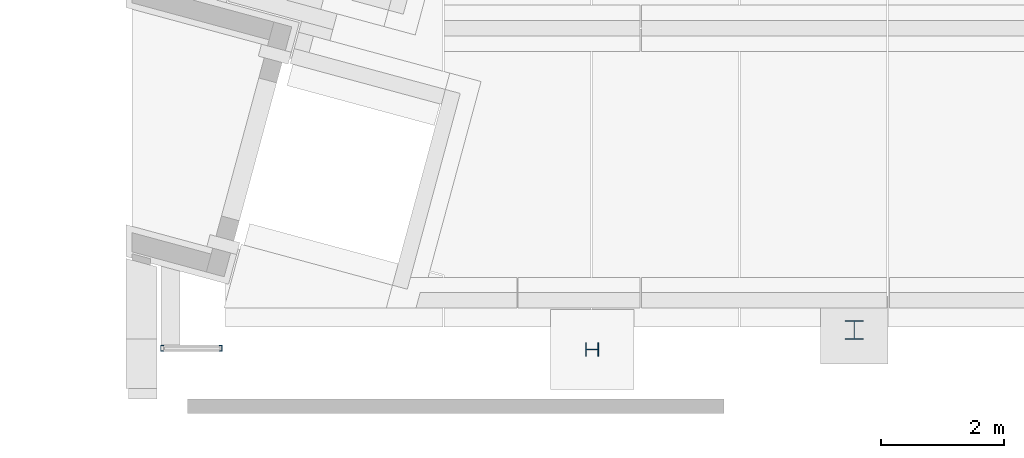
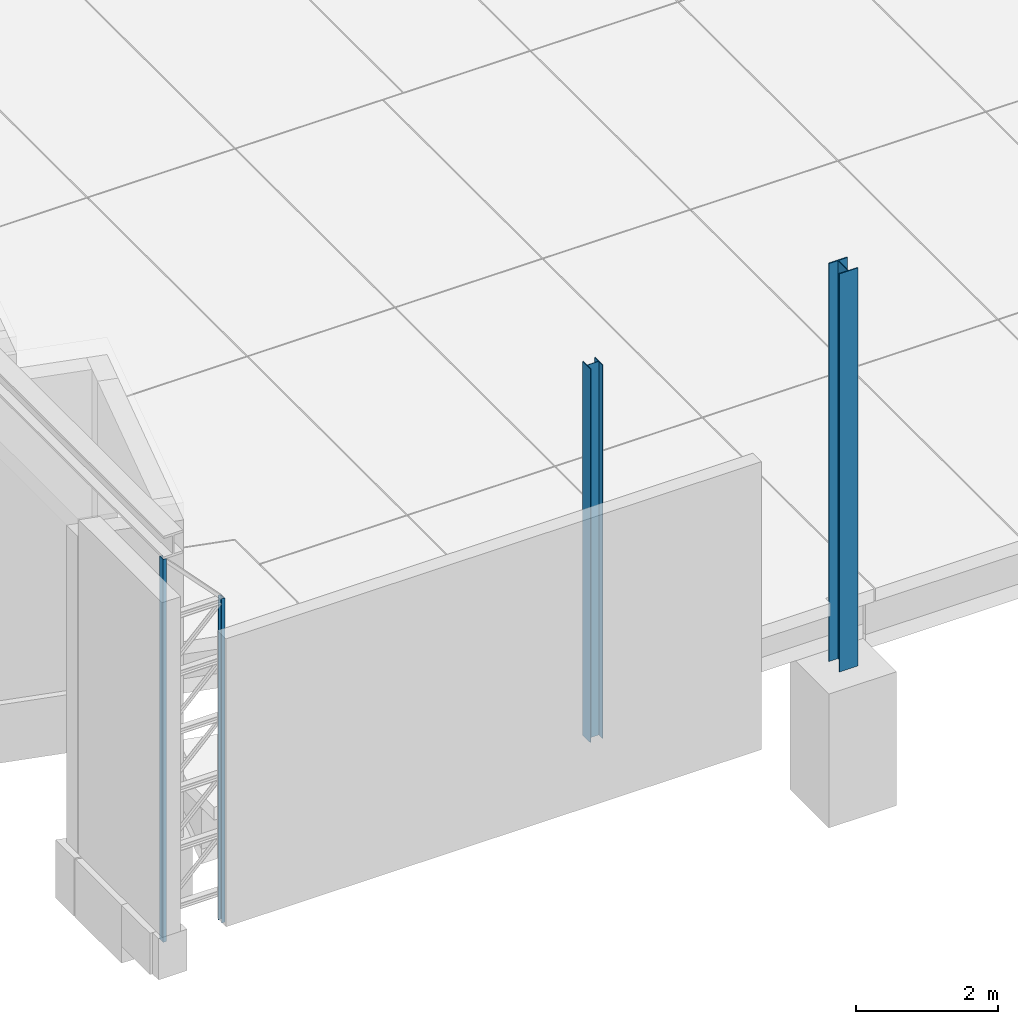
# One storey, part 17 of 59: 4 columns.
"""IFC2X3 building model written with IfcOpenShell, lengths in metres."""

from ifc_helpers import new_model, entity, si_unit, converted_unit, derived_unit, frame, origin, origin_with_axes, place, context, subcontext, project, spatial, polyline, outline, extrude, material, element, save


model = new_model("IFC2X3")

# Units and contexts
model_context = context("Model", 3, precision=1e-05, world=origin())
body_context = subcontext(model_context, "Body", "Model", "MODEL_VIEW")
ifc_project = project(units=[si_unit("LENGTHUNIT", "METRE"), si_unit("AREAUNIT", "SQUARE_METRE"), si_unit("VOLUMEUNIT", "CUBIC_METRE"), si_unit("MASSUNIT", "GRAM", prefix="KILO"), converted_unit("PLANEANGLEUNIT", "DEGREE", entity("IfcPlaneAngleMeasure", 0.0174532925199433), si_unit("PLANEANGLEUNIT", "RADIAN"), dimensions=[0, 0, 0, 0, 0, 0, 0]), derived_unit("THERMALTRANSMITTANCEUNIT", [(si_unit("POWERUNIT", "WATT"), 1), (si_unit("THERMODYNAMICTEMPERATUREUNIT", "KELVIN"), -1), (si_unit("LENGTHUNIT", "METRE"), -2)]), derived_unit("VOLUMETRICFLOWRATEUNIT", [(si_unit("LENGTHUNIT", "METRE"), 3), (converted_unit("TIMEUNIT", "hour", entity("IfcTimeMeasure", 3600.0), si_unit("TIMEUNIT", "SECOND"), dimensions=[0, 0, 1, 0, 0, 0, 0]), -1), (si_unit("LENGTHUNIT", "METRE"), -1)])], contexts=[model_context])

# Site, building, storey
site_placement = place(None, origin())
site = spatial("IfcSite", under=ifc_project, at=site_placement, Name="TWP_Speiseverteilzentrum SBW VZ II", CompositionType="ELEMENT")
building_placement = place(site_placement, origin())
building = spatial("IfcBuilding", under=site, at=building_placement, Name="Speiseverteilzentrum SBW VZ II", CompositionType="ELEMENT")
storey_placement = place(building_placement, frame((0.0, 0.0, 1.7307)))
storey = spatial("IfcBuildingStorey", under=building, at=storey_placement, Name="EG_Produktion_FFB", CompositionType="ELEMENT", Elevation=1.7307)

# Columns
ifc_material_1 = material(Name="S235")
column_1_placement = place(storey_placement, frame((20.9000000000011, 10.8501485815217, -1.32)))
element("IfcColumn", 1, at=column_1_placement, inside=storey, material=ifc_material_1, Name="Stahlstütze", context=body_context, shape_type="SweptSolid", body=[
    extrude(outline(polyline([(0.0, 0.0), (0.3, 0.0), (0.3, 0.0155), (0.1545, 0.0155), (0.1545, 0.2945), (0.3, 0.2945), (0.3, 0.31), (0.0, 0.31), (0.0, 0.2945), (0.1455, 0.2945), (0.1455, 0.0155), (0.0, 0.0155), (0.0, 0.0)])), origin_with_axes(), (0.0, 0.0, 1.0), 6.8393),
])
ifc_material_2 = material(Name="S235")
column_2_placement = place(storey_placement, frame((16.695, 10.5801485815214, -0.9)))
element("IfcColumn", 2, at=column_2_placement, inside=storey, material=ifc_material_2, Name="Stahlstütze", context=body_context, shape_type="SweptSolid", body=[
    extrude(outline(polyline([(0.21, 0.0), (0.21, 0.22), (0.199, 0.220000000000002), (0.199, 0.1135), (0.011, 0.1135), (0.011, 0.220000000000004), (0.0, 0.220000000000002), (0.0, 0.0), (0.011, 0.0), (0.011, 0.106500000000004), (0.199, 0.106500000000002), (0.199, 0.0), (0.21, 0.0)])), origin_with_axes(), (0.0, 0.0, 1.0), 6.4193),
])
ifc_material_3 = material(Name="S235")
column_3_placement = place(storey_placement, frame((9.80000000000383, 10.6579373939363, -1.965)))
element("IfcColumn", 3, at=column_3_placement, inside=storey, material=ifc_material_3, Name="Fachwerkstütze", context=body_context, shape_type="SweptSolid", body=[
    extrude(outline(polyline([(0.0, 0.0), (0.05, 0.0), (0.05, 0.0065), (0.006, 0.0100200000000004), (0.006, 0.0899799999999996), (0.05, 0.0935), (0.05, 0.1), (0.0, 0.1), (0.0, 0.0)])), origin_with_axes(), (0.0, 0.0, 1.0), 6.58),
])
ifc_material_4 = material(Name="S235")
column_4_placement = place(storey_placement, frame((10.7500000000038, 10.6579373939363, -1.965)))
element("IfcColumn", 4, at=column_4_placement, inside=storey, material=ifc_material_4, Name="Fachwerkstütze", context=body_context, shape_type="SweptSolid", body=[
    extrude(outline(polyline([(0.0, 0.0), (0.05, 0.0), (0.05, 0.1), (0.0, 0.1), (0.0, 0.0935), (0.044, 0.0899799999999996), (0.044, 0.0100200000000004), (0.0, 0.0065), (0.0, 0.0)])), origin_with_axes(), (0.0, 0.0, 1.0), 5.573),
])

save(model, "model.ifc")
